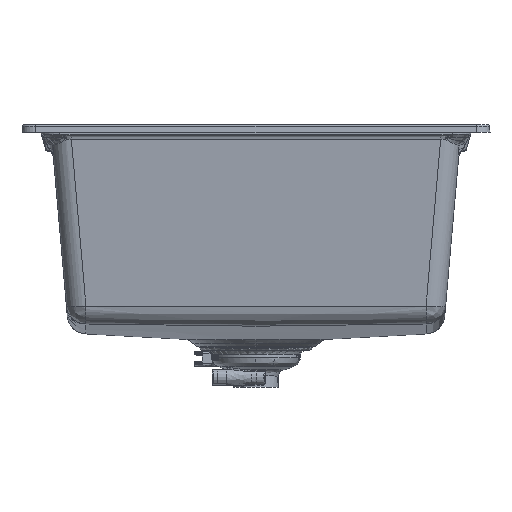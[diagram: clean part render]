
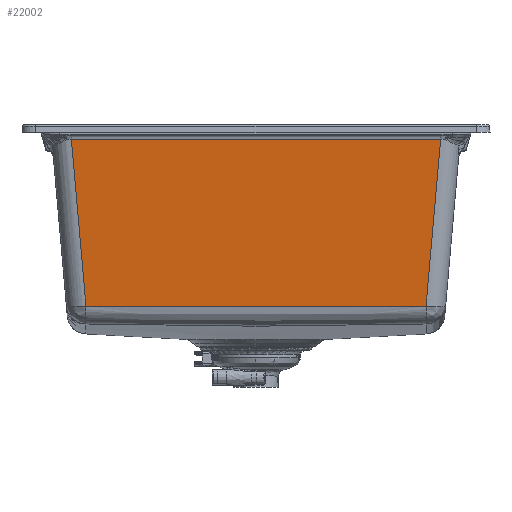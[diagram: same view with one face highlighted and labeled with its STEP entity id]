
A CAD part, front view. The second image highlights one B-rep face of the part: STEP entity #22002.
In plain terms, the highlighted planar face has unit normal (0, -0.996, -0.087).
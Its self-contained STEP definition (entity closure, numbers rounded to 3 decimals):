
#22002=ADVANCED_FACE('',(#25160),#73099,.T.);
#25160=FACE_OUTER_BOUND('',#28333,.T.);
#28333=EDGE_LOOP('',(#32762,#32763,#32764,#32765));
#32762=ORIENTED_EDGE('',*,*,#48697,.F.);
#32763=ORIENTED_EDGE('',*,*,#48650,.F.);
#32764=ORIENTED_EDGE('',*,*,#48728,.T.);
#32765=ORIENTED_EDGE('',*,*,#48286,.T.);
#48286=EDGE_CURVE('',#67616,#67617,#62225,.T.);
#48650=EDGE_CURVE('',#67808,#67806,#62392,.T.);
#48697=EDGE_CURVE('',#67806,#67617,#62412,.T.);
#48728=EDGE_CURVE('',#67808,#67616,#62429,.T.);
#62225=B_SPLINE_CURVE_WITH_KNOTS('',1,(#141907,#141908),.UNSPECIFIED.,.F.,
 .F.,(2,2),(-394.498,0.),.UNSPECIFIED.);
#62392=B_SPLINE_CURVE_WITH_KNOTS('',3,(#146032,#146033,#146034,#146035),
 .UNSPECIFIED.,.F.,.F.,(4,4),(0.,363.403),.UNSPECIFIED.);
#62412=B_SPLINE_CURVE_WITH_KNOTS('',1,(#146508,#146509),.UNSPECIFIED.,.F.,
 .F.,(2,2),(0.,179.488),.UNSPECIFIED.);
#62429=B_SPLINE_CURVE_WITH_KNOTS('',1,(#146774,#146775),.UNSPECIFIED.,.F.,
 .F.,(2,2),(-179.488,0.),.UNSPECIFIED.);
#67616=VERTEX_POINT('',#136387);
#67617=VERTEX_POINT('',#136388);
#67806=VERTEX_POINT('',#136577);
#67808=VERTEX_POINT('',#136579);
#73099=PLANE('',#76112);
#76112=AXIS2_PLACEMENT_3D('',#92074,#80750,$);
#80750=DIRECTION('',(0.,-0.996,-0.087));
#92074=CARTESIAN_POINT('',(224.818,-203.055,-68.923));
#136387=CARTESIAN_POINT('',(185.249,-220.496,130.429));
#136388=CARTESIAN_POINT('',(-209.249,-220.496,130.429));
#136577=CARTESIAN_POINT('',(-193.665,-204.912,-47.7));
#136579=CARTESIAN_POINT('',(169.664,-204.912,-47.7));
#141907=CARTESIAN_POINT('',(185.249,-220.496,130.429));
#141908=CARTESIAN_POINT('',(-209.249,-220.496,130.429));
#146032=CARTESIAN_POINT('',(169.664,-204.912,-47.7));
#146033=CARTESIAN_POINT('',(48.527,-204.651,-50.682));
#146034=CARTESIAN_POINT('',(-72.528,-204.651,-50.682));
#146035=CARTESIAN_POINT('',(-193.665,-204.912,-47.7));
#146508=CARTESIAN_POINT('',(-193.665,-204.912,-47.7));
#146509=CARTESIAN_POINT('',(-209.249,-220.496,130.429));
#146774=CARTESIAN_POINT('',(169.664,-204.912,-47.7));
#146775=CARTESIAN_POINT('',(185.249,-220.496,130.429));
